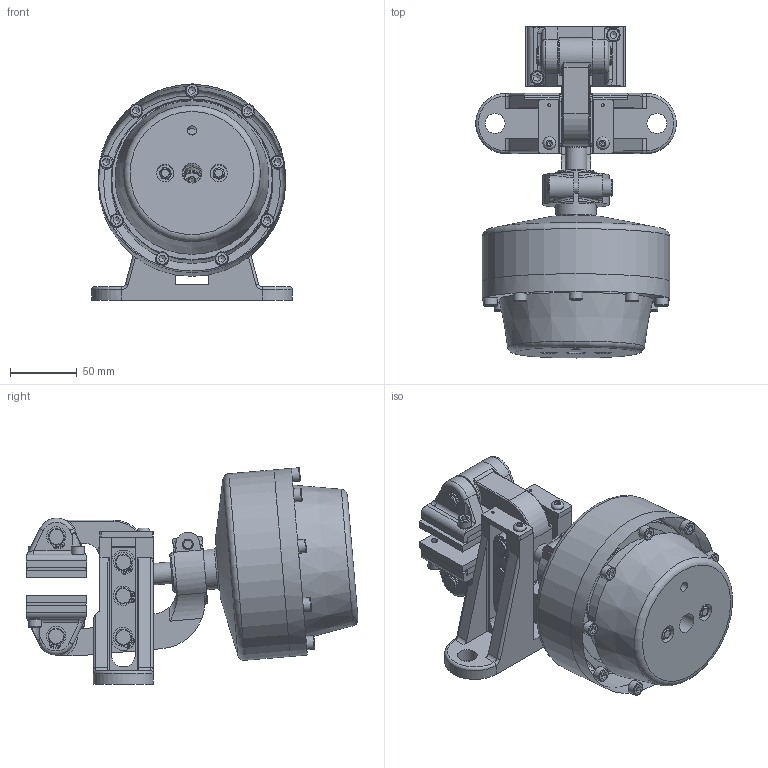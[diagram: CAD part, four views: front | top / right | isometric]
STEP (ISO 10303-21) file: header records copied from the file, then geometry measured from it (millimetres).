
FILE_DESCRIPTION(/* description */ ('','CAx-IF Rec.Pracs.---Representation and Presentation of Product Manufacturing Information (PMI)---4.0---2014-10-13'),/* implementation_level */ '2;1');
FILE_NAME(/* name */ 'X:\INVENTOR\DISEGNI\19_Pinze\STEP x Sito\PNEUM-NEGATIVE\19_36_013_03 PPD-N013_12,7.stp',/* time_stamp */ '2018-02-20T13:48:45+01:00',/* author */ ('stefano'),/* organization */ (''),/* preprocessor_version */ 'ST-DEVELOPER v17',/* originating_system */ 'Autodesk Inventor 2018',/* authorisation */ '');
FILE_SCHEMA (('AP242_MANAGED_MODEL_BASED_3D_ENGINEERING_MIM_LF { 1 0 10303 442 1 1 4 }'));
Length unit declared in the file: millimetre
Products named in the file (1): 19_36_013_03 PPD-N013_12,7_Substitute_2
Bounding box: 150 x 248.16 x 161.83 mm (x, y, z)
Volume: 1417021.9 mm3; surface area: 279232 mm2
Topology: 5 solids, 5 shells, 935 faces, 2655 edges, 1777 vertices
Faces by surface type: plane 494, cylinder 284, cone 71, torus 61, bspline 24, sphere 1
Full cylindrical faces by diameter (mm): 1.7 x20, 2 x2, 3 x3, 4.134 x2, 4.917 x9, 6 x6, 6.917 x1, 8 x3, 8.5 x1, 9.5 x4, 10 x18, 10.5 x1, 11.5 x10, 12 x23, 12.5 x1, 13 x3, 13.5 x1, 14.95 x1, 15 x2, 16 x2, 19 x1, 19.5 x8, 22 x1, 22.6 x1, 24 x1, 25 x1, 26.5 x2, 28 x1, 30 x1, 35 x1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
Entity records: 35606 total; most frequent: CARTESIAN_POINT 9683, DIRECTION 5374, ORIENTED_EDGE 5258, EDGE_CURVE 2629, AXIS2_PLACEMENT_3D 2065, VERTEX_POINT 1777, LINE 1244, VECTOR 1244
